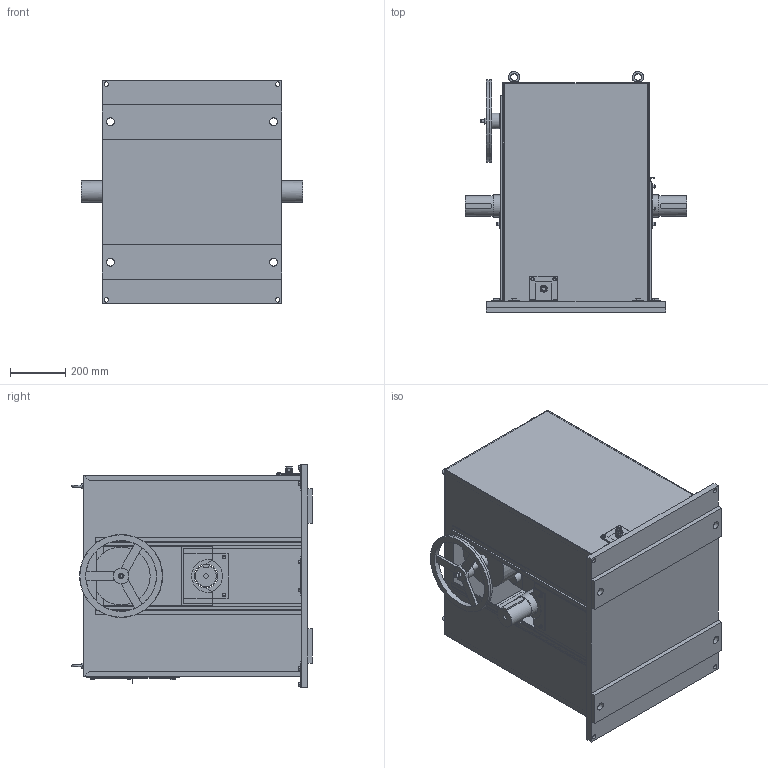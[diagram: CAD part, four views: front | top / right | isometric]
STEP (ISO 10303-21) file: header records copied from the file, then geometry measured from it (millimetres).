
FILE_DESCRIPTION (( 'STEP AP203' ), '1' );
FILE_NAME ('ECE-2116S-05_水門用直流電磁ブレーキ.STEP', '2026-04-06T07:44:24', ( '' ), ( '' ), 'SwSTEP 2.0', 'SolidWorks 2025', '' );
FILE_SCHEMA (( 'CONFIG_CONTROL_DESIGN' ));
Length unit declared in the file: millimetre
Products named in the file (1): ECE-2116S-05_水門用直流電磁ブレーキ
Bounding box: 800 x 870.99 x 810 mm (x, y, z)
Volume: 36587266 mm3; surface area: 7113922.4 mm2
Topology: 4 solids, 4 shells, 976 faces, 2463 edges, 1569 vertices
Faces by surface type: plane 674, cone 160, cylinder 126, sphere 12, torus 4
Full cylindrical faces by diameter (mm): 6 x2, 7 x2, 8 x4, 8.5 x4, 10 x12, 12 x1, 13 x13, 16 x5, 18 x12, 20 x1, 22 x1, 23 x1, 25 x1, 28 x10, 50 x1, 57 x2, 75 x2, 80 x3, 85 x1, 210 x1, 256 x1
Entity records: 29430 total; most frequent: CARTESIAN_POINT 6793, ORIENTED_EDGE 4646, DIRECTION 4393, EDGE_CURVE 2323, VECTOR 1571, LINE 1571, VERTEX_POINT 1523, AXIS2_PLACEMENT_3D 1411
